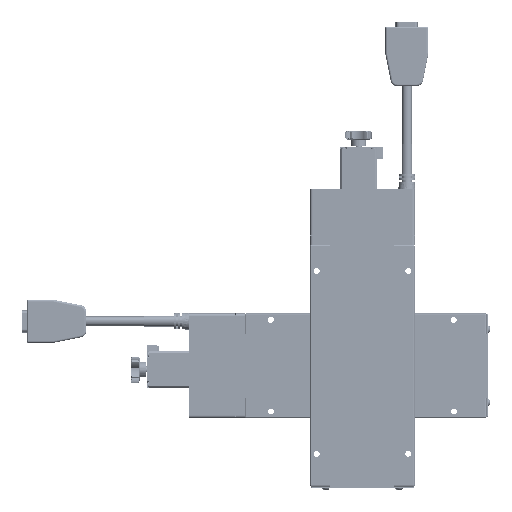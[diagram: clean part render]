
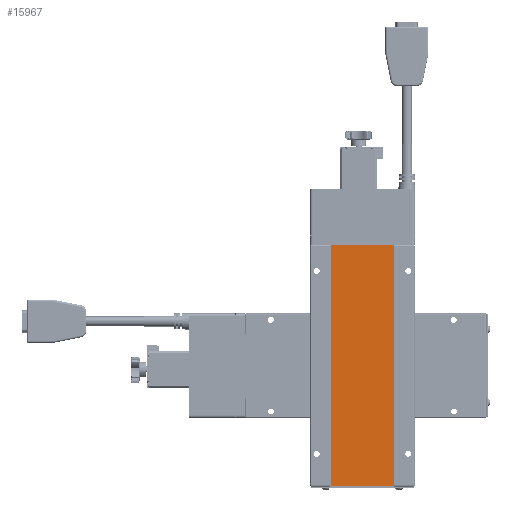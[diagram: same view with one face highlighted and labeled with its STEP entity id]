
A CAD part, front view. The second image highlights one B-rep face of the part: STEP entity #15967.
In plain terms, the highlighted planar face has unit normal (0, -1, 0).
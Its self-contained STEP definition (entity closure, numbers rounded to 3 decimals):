
#5976 = CARTESIAN_POINT ( 'NONE',  ( -24.3, 0.5, 0.2 ) ) ;
#8814 = EDGE_LOOP ( 'NONE', ( #68152, #64997, #84942, #101920 ) ) ;
#11893 = VECTOR ( 'NONE', #26415, 1000. ) ;
#12867 = DIRECTION ( 'NONE',  ( 0., 0., 1. ) ) ;
#15589 = VECTOR ( 'NONE', #12867, 1000. ) ;
#15967 = ADVANCED_FACE ( 'NONE', ( #67689 ), #26952, .F. ) ;
#17736 = CARTESIAN_POINT ( 'NONE',  ( 24.3, 0.5, 184.8 ) ) ;
#18771 = DIRECTION ( 'NONE',  ( -1., 0., 0. ) ) ;
#20352 = EDGE_CURVE ( 'NONE', #52246, #24954, #80874, .T. ) ;
#21450 = CARTESIAN_POINT ( 'NONE',  ( 24.3, 0.5, 0.2 ) ) ;
#24954 = VERTEX_POINT ( 'NONE', #5976 ) ;
#26415 = DIRECTION ( 'NONE',  ( 1., 0., 0. ) ) ;
#26952 = PLANE ( 'NONE',  #39494 ) ;
#29218 = VECTOR ( 'NONE', #111430, 1000. ) ;
#33833 = EDGE_CURVE ( 'NONE', #24954, #68255, #110591, .T. ) ;
#35266 = LINE ( 'NONE', #126961, #15589 ) ;
#39494 = AXIS2_PLACEMENT_3D ( 'NONE', #88093, #119986, #18771 ) ;
#48183 = VERTEX_POINT ( 'NONE', #17736 ) ;
#52135 = CARTESIAN_POINT ( 'NONE',  ( -24.3, 0.5, 184.8 ) ) ;
#52246 = VERTEX_POINT ( 'NONE', #52135 ) ;
#57637 = CARTESIAN_POINT ( 'NONE',  ( -24.3, 0.5, 0.2 ) ) ;
#64997 = ORIENTED_EDGE ( 'NONE', *, *, #33833, .T. ) ;
#67689 = FACE_OUTER_BOUND ( 'NONE', #8814, .T. ) ;
#68152 = ORIENTED_EDGE ( 'NONE', *, *, #20352, .T. ) ;
#68255 = VERTEX_POINT ( 'NONE', #21450 ) ;
#70006 = CARTESIAN_POINT ( 'NONE',  ( -24.3, 0.5, 0.2 ) ) ;
#80874 = LINE ( 'NONE', #70006, #29218 ) ;
#84942 = ORIENTED_EDGE ( 'NONE', *, *, #119711, .T. ) ;
#88093 = CARTESIAN_POINT ( 'NONE',  ( -24.3, 0.5, 184.8 ) ) ;
#91848 = DIRECTION ( 'NONE',  ( -1., 0., 0. ) ) ;
#101920 = ORIENTED_EDGE ( 'NONE', *, *, #113130, .T. ) ;
#102015 = LINE ( 'NONE', #113551, #118488 ) ;
#110591 = LINE ( 'NONE', #57637, #11893 ) ;
#111430 = DIRECTION ( 'NONE',  ( 0., 0., -1. ) ) ;
#113130 = EDGE_CURVE ( 'NONE', #48183, #52246, #102015, .T. ) ;
#113551 = CARTESIAN_POINT ( 'NONE',  ( -24.3, 0.5, 184.8 ) ) ;
#118488 = VECTOR ( 'NONE', #91848, 1000. ) ;
#119711 = EDGE_CURVE ( 'NONE', #68255, #48183, #35266, .T. ) ;
#119986 = DIRECTION ( 'NONE',  ( 0., 1., 0. ) ) ;
#126961 = CARTESIAN_POINT ( 'NONE',  ( 24.3, 0.5, 0.2 ) ) ;
